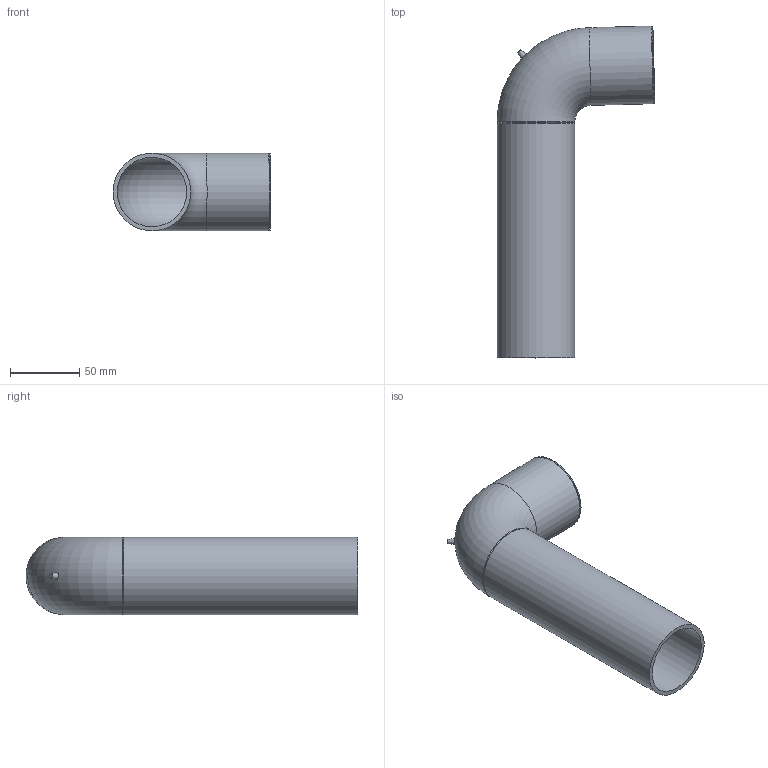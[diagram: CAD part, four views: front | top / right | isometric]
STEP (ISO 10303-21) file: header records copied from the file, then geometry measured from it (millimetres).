
FILE_DESCRIPTION(/* description */ (''),/* implementation_level */ '2;1');
FILE_NAME(/* name */ 'Z:\Geberit\Export\NewStep\363051.stp',/* time_stamp */ '2014-04-01T21:08:32+02:00',/* author */ ('nelson'),/* organization */ (''),/* preprocessor_version */ 'ST-DEVELOPER v15.2',/* originating_system */ 'Autodesk Inventor 2014',/* authorisation */ '');
FILE_SCHEMA (('AUTOMOTIVE_DESIGN { 1 0 10303 214 3 1 1 }'));
Length unit declared in the file: millimetre
Products named in the file (1): 363051
Bounding box: 113.73 x 239.2 x 56 mm (x, y, z)
Volume: 138743.6 mm3; surface area: 93738.6 mm2
Topology: 1 solids, 1 shells, 15 faces, 30 edges, 17 vertices
Faces by surface type: cone 5, cylinder 5, plane 3, torus 2
Full cylindrical faces by diameter (mm): 50 x2, 56 x3
Entity records: 365 total; most frequent: CARTESIAN_POINT 85, DIRECTION 60, EDGE_LOOP 30, ORIENTED_EDGE 30, AXIS2_PLACEMENT_3D 30, FACE_BOUND 17, VERTEX_POINT 15, EDGE_CURVE 15
